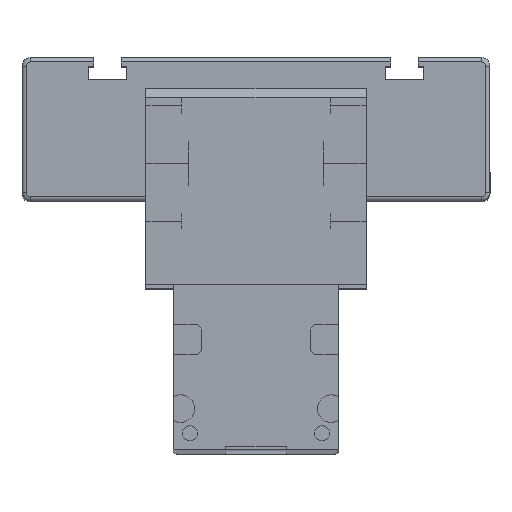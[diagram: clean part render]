
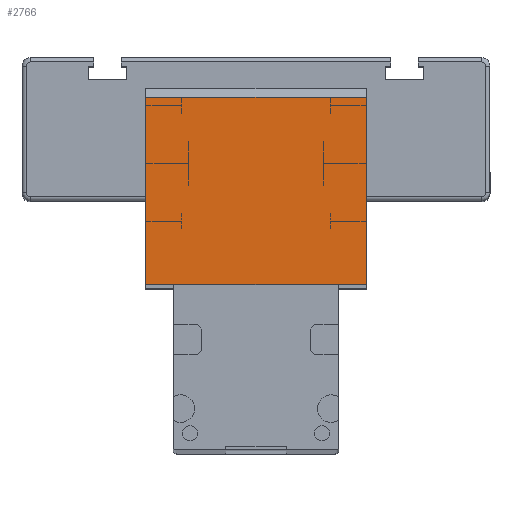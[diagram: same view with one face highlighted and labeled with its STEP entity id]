
A CAD part, top view. The second image highlights one B-rep face of the part: STEP entity #2766.
In plain terms, the highlighted planar face has unit normal (0, 0, 1).
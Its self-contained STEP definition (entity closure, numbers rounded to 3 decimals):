
#413 = ORIENTED_EDGE ( 'NONE', *, *, #2208, .T. ) ;
#513 = CARTESIAN_POINT ( 'NONE',  ( 80., 79.05, 29.5 ) ) ;
#577 = ORIENTED_EDGE ( 'NONE', *, *, #12515, .F. ) ;
#615 = DIRECTION ( 'NONE',  ( 0., -1., 0. ) ) ;
#642 = EDGE_CURVE ( 'NONE', #8231, #6369, #12167, .T. ) ;
#1300 = DIRECTION ( 'NONE',  ( 0., -1., 0. ) ) ;
#1694 = DIRECTION ( 'NONE',  ( -1., 0., 0. ) ) ;
#1960 = DIRECTION ( 'NONE',  ( 0., 0., -1. ) ) ;
#2029 = PLANE ( 'NONE',  #11761 ) ;
#2208 = EDGE_CURVE ( 'NONE', #6369, #2823, #8222, .T. ) ;
#2219 = ORIENTED_EDGE ( 'NONE', *, *, #642, .T. ) ;
#2340 = VECTOR ( 'NONE', #1300, 1000. ) ;
#2373 = ORIENTED_EDGE ( 'NONE', *, *, #10815, .T. ) ;
#2766 = ADVANCED_FACE ( 'NONE', ( #11391 ), #2029, .F. ) ;
#2823 = VERTEX_POINT ( 'NONE', #7769 ) ;
#4103 = CARTESIAN_POINT ( 'NONE',  ( 80., 0., 29.5 ) ) ;
#5464 = VECTOR ( 'NONE', #1694, 1000. ) ;
#5863 = CARTESIAN_POINT ( 'NONE',  ( 0., 0., 29.5 ) ) ;
#6248 = CARTESIAN_POINT ( 'NONE',  ( 80., 0., 29.5 ) ) ;
#6369 = VERTEX_POINT ( 'NONE', #11394 ) ;
#7310 = VECTOR ( 'NONE', #13506, 1000. ) ;
#7769 = CARTESIAN_POINT ( 'NONE',  ( 0., 11., 29.5 ) ) ;
#8222 = LINE ( 'NONE', #5863, #11772 ) ;
#8231 = VERTEX_POINT ( 'NONE', #513 ) ;
#8736 = EDGE_LOOP ( 'NONE', ( #413, #2373, #577, #2219 ) ) ;
#9463 = CARTESIAN_POINT ( 'NONE',  ( 80., 11., 29.5 ) ) ;
#10815 = EDGE_CURVE ( 'NONE', #2823, #13000, #13568, .T. ) ;
#11197 = CARTESIAN_POINT ( 'NONE',  ( 80., 79.05, 29.5 ) ) ;
#11307 = CARTESIAN_POINT ( 'NONE',  ( 0., 11., 29.5 ) ) ;
#11391 = FACE_OUTER_BOUND ( 'NONE', #8736, .T. ) ;
#11394 = CARTESIAN_POINT ( 'NONE',  ( 0., 79.05, 29.5 ) ) ;
#11761 = AXIS2_PLACEMENT_3D ( 'NONE', #6248, #1960, #12633 ) ;
#11772 = VECTOR ( 'NONE', #615, 1000. ) ;
#12167 = LINE ( 'NONE', #11197, #5464 ) ;
#12515 = EDGE_CURVE ( 'NONE', #8231, #13000, #13635, .T. ) ;
#12633 = DIRECTION ( 'NONE',  ( 0., 1., 0. ) ) ;
#13000 = VERTEX_POINT ( 'NONE', #9463 ) ;
#13506 = DIRECTION ( 'NONE',  ( 1., 0., 0. ) ) ;
#13568 = LINE ( 'NONE', #11307, #7310 ) ;
#13635 = LINE ( 'NONE', #4103, #2340 ) ;
